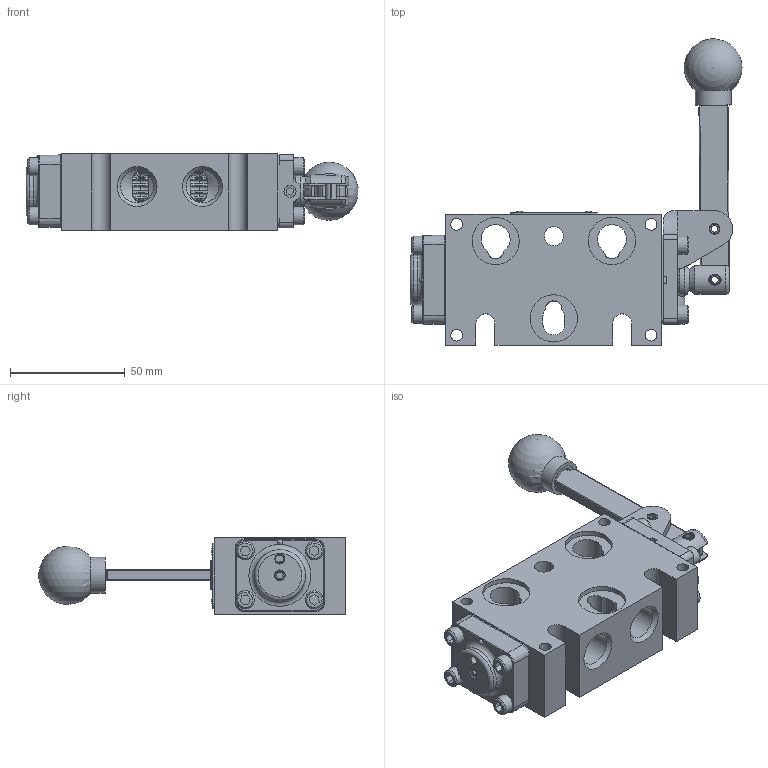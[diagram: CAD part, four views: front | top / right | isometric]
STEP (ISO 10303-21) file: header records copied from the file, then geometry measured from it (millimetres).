
FILE_DESCRIPTION(/* description */ (''),/* implementation_level */ '2;1');
FILE_NAME(/* name */ 'D:\Engineering\Product\Valves\Assembly\Lever\HX\stp\BHX3.stp',/* time_stamp */ '2022-05-06T17:22:56-04:00',/* author */ ('RMcKenna'),/* organization */ (''),/* preprocessor_version */ 'ST-DEVELOPER v18.1',/* originating_system */ 'Autodesk Inventor 2021',/* authorisation */ '');
FILE_SCHEMA (('AUTOMOTIVE_DESIGN { 1 0 10303 214 3 1 1 }'));
Length unit declared in the file: centimetre
Products named in the file (1): Part6
Bounding box: 144.97 x 133.86 x 33.32 mm (x, y, z)
Volume: 172986.2 mm3; surface area: 66441.1 mm2
Topology: 2 solids, 24 shells, 1029 faces, 2475 edges, 1570 vertices
Faces by surface type: plane 417, cone 243, cylinder 231, torus 95, bspline 38, sphere 5
Full cylindrical faces by diameter (mm): 2.07 x2, 2.261 x2, 2.778 x2, 3.048 x2, 3.175 x2, 3.618 x1, 3.683 x10, 4.75 x2, 4.763 x2, 4.826 x8, 4.978 x4, 5.055 x1, 5.156 x12, 5.283 x2, 7.798 x1, 7.938 x8, 8.334 x1, 9.525 x1, 9.728 x1, 9.855 x1, 11.113 x1, 11.303 x3, 12.141 x2, 14.275 x2, 14.287 x2, 14.986 x1, 15.748 x1, 18.618 x1, 18.745 x12, 19.177 x2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
Entity records: 34911 total; most frequent: CARTESIAN_POINT 9974, DIRECTION 4975, ORIENTED_EDGE 4918, EDGE_CURVE 2459, AXIS2_PLACEMENT_3D 1922, VERTEX_POINT 1570, EDGE_LOOP 1191, LINE 1131
